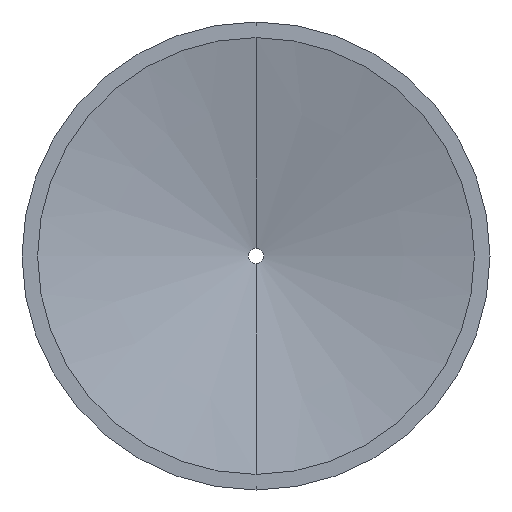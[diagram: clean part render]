
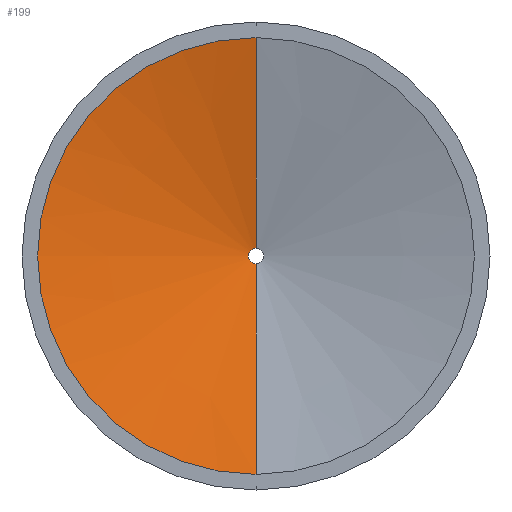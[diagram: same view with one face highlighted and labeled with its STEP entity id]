
A CAD part, front view. The second image highlights one B-rep face of the part: STEP entity #199.
In plain terms, the highlighted conical face has half-angle 77 degrees and reference radius 0.5 mm.
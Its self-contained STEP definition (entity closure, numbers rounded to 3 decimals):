
#2 = ORIENTED_EDGE ( 'NONE', *, *, #183, .F. ) ;
#17 = CONICAL_SURFACE ( 'NONE', #321, 0.5, 1.344 ) ;
#26 = DIRECTION ( 'NONE',  ( 0., 1., 0. ) ) ;
#44 = CARTESIAN_POINT ( 'NONE',  ( 0., 0., 0. ) ) ;
#66 = CARTESIAN_POINT ( 'NONE',  ( 0., 3.117, 0.5 ) ) ;
#75 = ORIENTED_EDGE ( 'NONE', *, *, #394, .F. ) ;
#78 = VECTOR ( 'NONE', #136, 1000. ) ;
#81 = ORIENTED_EDGE ( 'NONE', *, *, #164, .F. ) ;
#106 = CARTESIAN_POINT ( 'NONE',  ( 0., 3.117, 0.5 ) ) ;
#123 = DIRECTION ( 'NONE',  ( 0., 0., -1. ) ) ;
#136 = DIRECTION ( 'NONE',  ( 0., -0.225, -0.974 ) ) ;
#144 = CARTESIAN_POINT ( 'NONE',  ( 0., 3.117, -0.5 ) ) ;
#164 = EDGE_CURVE ( 'NONE', #223, #339, #278, .T. ) ;
#182 = DIRECTION ( 'NONE',  ( 0., -1., 0. ) ) ;
#183 = EDGE_CURVE ( 'NONE', #201, #288, #336, .T. ) ;
#199 = ADVANCED_FACE ( 'NONE', ( #277 ), #17, .F. ) ;
#201 = VERTEX_POINT ( 'NONE', #343 ) ;
#223 = VERTEX_POINT ( 'NONE', #106 ) ;
#230 = ORIENTED_EDGE ( 'NONE', *, *, #427, .T. ) ;
#231 = CARTESIAN_POINT ( 'NONE',  ( 0., 0., 14. ) ) ;
#256 = CARTESIAN_POINT ( 'NONE',  ( 0., 3.117, 0. ) ) ;
#270 = CARTESIAN_POINT ( 'NONE',  ( 0., 3.117, 0. ) ) ;
#277 = FACE_OUTER_BOUND ( 'NONE', #328, .T. ) ;
#278 = CIRCLE ( 'NONE', #378, 0.5 ) ;
#288 = VERTEX_POINT ( 'NONE', #231 ) ;
#290 = CARTESIAN_POINT ( 'NONE',  ( 0., 3.117, -0.5 ) ) ;
#296 = DIRECTION ( 'NONE',  ( 0., -1., 0. ) ) ;
#306 = VECTOR ( 'NONE', #364, 1000. ) ;
#319 = LINE ( 'NONE', #66, #306 ) ;
#321 = AXIS2_PLACEMENT_3D ( 'NONE', #270, #296, #421 ) ;
#328 = EDGE_LOOP ( 'NONE', ( #81, #230, #2, #75 ) ) ;
#335 = AXIS2_PLACEMENT_3D ( 'NONE', #44, #26, #500 ) ;
#336 = CIRCLE ( 'NONE', #335, 14. ) ;
#339 = VERTEX_POINT ( 'NONE', #290 ) ;
#343 = CARTESIAN_POINT ( 'NONE',  ( 0., 0., -14. ) ) ;
#364 = DIRECTION ( 'NONE',  ( 0., -0.225, 0.974 ) ) ;
#378 = AXIS2_PLACEMENT_3D ( 'NONE', #256, #182, #123 ) ;
#391 = LINE ( 'NONE', #144, #78 ) ;
#394 = EDGE_CURVE ( 'NONE', #339, #201, #391, .T. ) ;
#421 = DIRECTION ( 'NONE',  ( 0., 0., -1. ) ) ;
#427 = EDGE_CURVE ( 'NONE', #223, #288, #319, .T. ) ;
#500 = DIRECTION ( 'NONE',  ( 0., 0., -1. ) ) ;
